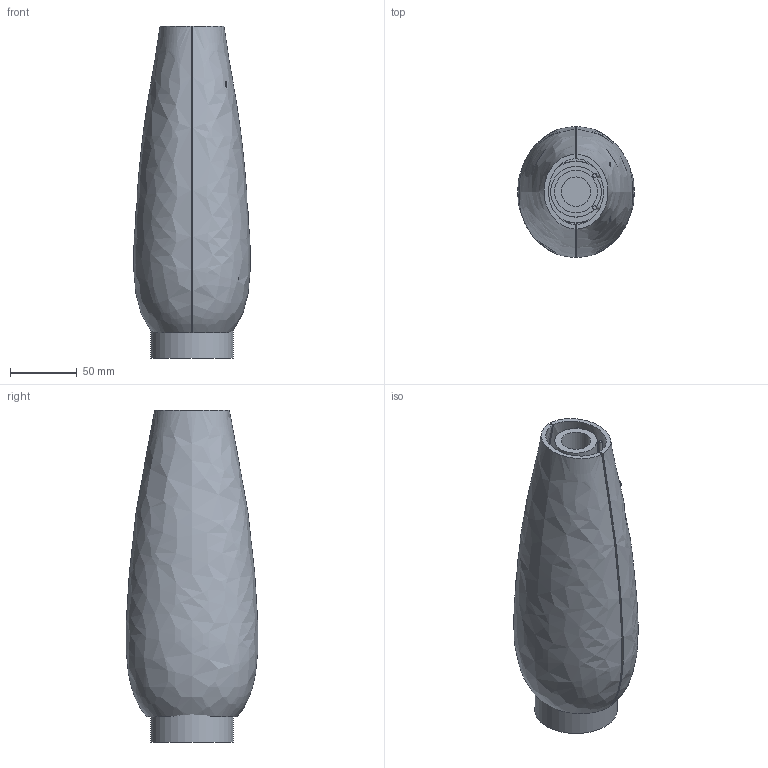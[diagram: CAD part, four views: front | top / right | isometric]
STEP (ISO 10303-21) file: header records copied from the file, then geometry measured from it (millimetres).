
FILE_DESCRIPTION(('FreeCAD Model'),'2;1');
FILE_NAME('Open CASCADE Shape Model','2026-10-05T09:22:52',('Author'),( ''),'Open CASCADE STEP processor 7.8','FreeCAD','Unknown');
FILE_SCHEMA(('AUTOMOTIVE_DESIGN { 1 0 10303 214 1 1 1 1 }'));
Length unit declared in the file: millimetre
Products named in the file (14): Export_upper_arm; ShoulderRotationCoupler; UpperArmAnteriorShell; UpperArmPosteriorShell; UpperPanelScrew_75_-1; UpperPanelScrew_75_1; UpperPanelScrew_220_-1; UpperPanelScrew_220_1; HumerusCore; ShoulderMotorEnvelope; ShoulderMotorBand; ElbowDriveEnvelope; UpperHarness-12; UpperHarness12
Assembly tree (13 placements, depth 2):
  Export_upper_arm
    ShoulderRotationCoupler
    UpperArmAnteriorShell
    UpperArmPosteriorShell
    UpperPanelScrew_75_-1
    UpperPanelScrew_75_1
    UpperPanelScrew_220_-1
    UpperPanelScrew_220_1
    HumerusCore
    ShoulderMotorEnvelope
    ShoulderMotorBand
    ElbowDriveEnvelope
    UpperHarness-12
    UpperHarness12
Bounding box: 87.46 x 98.5 x 249 mm (x, y, z)
Volume: 502932.7 mm3; surface area: 196240 mm2
Topology: 13 solids, 13 shells, 56 faces, 78 edges, 52 vertices
Faces by surface type: plane 34, cylinder 18, bspline 4
Full cylindrical faces by diameter (mm): 1.68 x4, 2.8 x2, 4.2 x4, 22 x1, 32 x1, 38 x2, 45.6 x1, 46 x1, 46.6 x1, 62 x1
Entity records: 3370 total; most frequent: CARTESIAN_POINT 2188, DIRECTION 230, ORIENTED_EDGE 156, AXIS2_PLACEMENT_3D 102, EDGE_CURVE 78, FACE_BOUND 66, EDGE_LOOP 66, ADVANCED_FACE 56
